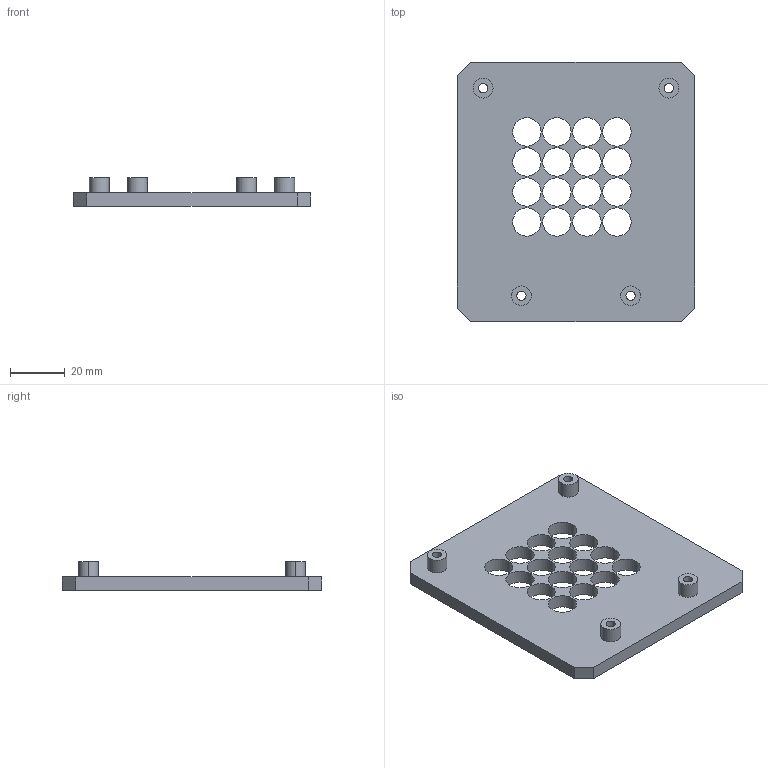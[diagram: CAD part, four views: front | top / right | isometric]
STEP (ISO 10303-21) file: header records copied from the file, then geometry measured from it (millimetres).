
FILE_DESCRIPTION (( 'STEP AP203' ), '1' );
FILE_NAME ('01_array_alignment_jig.step', '2026-09-30T11:36:06', ( '' ), ( '' ), 'SwSTEP 2.0', 'SolidWorks 2025', '' );
FILE_SCHEMA (( 'CONFIG_CONTROL_DESIGN' ));
Length unit declared in the file: millimetre
Products named in the file (1): 01_array_alignment_jig
Bounding box: 87 x 95 x 10.6 mm (x, y, z)
Volume: 34806.2 mm3; surface area: 18973.8 mm2
Topology: 1 solids, 1 shells, 62 faces, 168 edges, 112 vertices
Faces by surface type: cylinder 48, plane 14
Entity records: 2165 total; most frequent: DIRECTION 390, CARTESIAN_POINT 343, ORIENTED_EDGE 336, EDGE_CURVE 168, AXIS2_PLACEMENT_3D 159, VERTEX_POINT 112, EDGE_LOOP 106, CIRCLE 96
